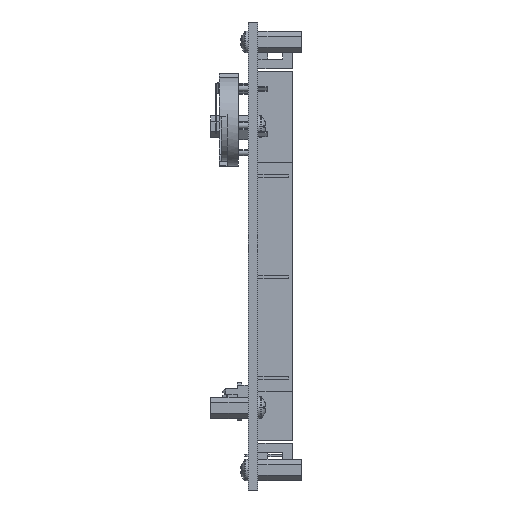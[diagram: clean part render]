
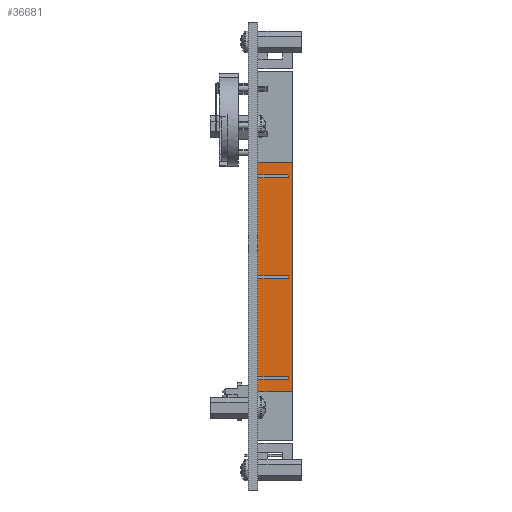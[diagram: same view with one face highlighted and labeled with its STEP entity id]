
A CAD part, left-side view. The second image highlights one B-rep face of the part: STEP entity #36681.
In plain terms, the highlighted planar face has unit normal (-1, 0, 0).
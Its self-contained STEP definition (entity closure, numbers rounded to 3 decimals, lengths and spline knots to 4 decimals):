
#331=DIRECTION('',(0.,0.,1.));
#332=VECTOR('',#331,0.124);
#333=CARTESIAN_POINT('',(-4.0252,0.,0.464));
#334=LINE('',#333,#332);
#347=DIRECTION('',(0.,0.,1.));
#348=VECTOR('',#347,0.9846);
#349=CARTESIAN_POINT('',(-4.0252,0.,-0.5482));
#350=LINE('',#349,#348);
#363=DIRECTION('',(0.,0.,1.));
#364=VECTOR('',#363,0.9846);
#365=CARTESIAN_POINT('',(-4.0252,0.,-1.5604));
#366=LINE('',#365,#364);
#379=DIRECTION('',(0.,0.,1.));
#380=VECTOR('',#379,0.124);
#381=CARTESIAN_POINT('',(-4.0252,0.,-1.712));
#382=LINE('',#381,#380);
#4259=DIRECTION('',(0.,-1.,0.));
#4260=VECTOR('',#4259,0.3465);
#4261=CARTESIAN_POINT('',(-4.0252,0.,-1.712));
#4262=LINE('',#4261,#4260);
#4403=DIRECTION('',(0.,1.,0.));
#4404=VECTOR('',#4403,0.3465);
#4405=CARTESIAN_POINT('',(-4.0252,-0.3465,
0.588));
#4406=LINE('',#4405,#4404);
#4411=DIRECTION('',(0.,0.,1.));
#4412=VECTOR('',#4411,0.0276);
#4413=CARTESIAN_POINT('',(-4.0252,-0.3071,
-1.588));
#4414=LINE('',#4413,#4412);
#4415=DIRECTION('',(0.,0.,1.));
#4416=VECTOR('',#4415,0.0276);
#4417=CARTESIAN_POINT('',(-4.0252,-0.3071,
-0.5758));
#4418=LINE('',#4417,#4416);
#4419=DIRECTION('',(0.,0.,1.));
#4420=VECTOR('',#4419,0.0276);
#4421=CARTESIAN_POINT('',(-4.0252,-0.3071,
0.4364));
#4422=LINE('',#4421,#4420);
#4423=DIRECTION('',(0.,0.,-1.));
#4424=VECTOR('',#4423,2.3);
#4425=CARTESIAN_POINT('',(-4.0252,-0.3465,
0.588));
#4426=LINE('',#4425,#4424);
#4431=DIRECTION('',(0.,1.,0.));
#4432=VECTOR('',#4431,0.3071);
#4433=CARTESIAN_POINT('',(-4.0252,-0.3071,
-1.588));
#4434=LINE('',#4433,#4432);
#4443=DIRECTION('',(0.,-1.,0.));
#4444=VECTOR('',#4443,0.3071);
#4445=CARTESIAN_POINT('',(-4.0252,0.,-1.5604));
#4446=LINE('',#4445,#4444);
#4459=DIRECTION('',(0.,1.,0.));
#4460=VECTOR('',#4459,0.3071);
#4461=CARTESIAN_POINT('',(-4.0252,-0.3071,
-0.5758));
#4462=LINE('',#4461,#4460);
#4471=DIRECTION('',(0.,-1.,0.));
#4472=VECTOR('',#4471,0.3071);
#4473=CARTESIAN_POINT('',(-4.0252,0.,-0.5482));
#4474=LINE('',#4473,#4472);
#4487=DIRECTION('',(0.,1.,0.));
#4488=VECTOR('',#4487,0.3071);
#4489=CARTESIAN_POINT('',(-4.0252,-0.3071,
0.4364));
#4490=LINE('',#4489,#4488);
#4499=DIRECTION('',(0.,-1.,0.));
#4500=VECTOR('',#4499,0.3071);
#4501=CARTESIAN_POINT('',(-4.0252,0.,0.464));
#4502=LINE('',#4501,#4500);
#26949=CARTESIAN_POINT('',(-4.0252,-0.3465,
0.588));
#26950=VERTEX_POINT('',#26949);
#26959=CARTESIAN_POINT('',(-4.0252,-0.3465,-1.712));
#26960=VERTEX_POINT('',#26959);
#26965=CARTESIAN_POINT('',(-4.0252,-0.3071,
-0.5758));
#26966=CARTESIAN_POINT('',(-4.0252,-0.3071,
-0.5482));
#26967=VERTEX_POINT('',#26965);
#26968=VERTEX_POINT('',#26966);
#26969=CARTESIAN_POINT('',(-4.0252,-0.3071,
0.4364));
#26970=CARTESIAN_POINT('',(-4.0252,-0.3071,
0.464));
#26971=VERTEX_POINT('',#26969);
#26972=VERTEX_POINT('',#26970);
#26973=CARTESIAN_POINT('',(-4.0252,-0.3071,
-1.588));
#26974=CARTESIAN_POINT('',(-4.0252,-0.3071,
-1.5604));
#26975=VERTEX_POINT('',#26973);
#26976=VERTEX_POINT('',#26974);
#27009=CARTESIAN_POINT('',(-4.0252,0.,0.588));
#27010=VERTEX_POINT('',#27009);
#27011=CARTESIAN_POINT('',(-4.0252,0.,-1.712));
#27012=VERTEX_POINT('',#27011);
#27013=CARTESIAN_POINT('',(-4.0252,0.,-1.588));
#27014=VERTEX_POINT('',#27013);
#27015=CARTESIAN_POINT('',(-4.0252,0.,-1.5604));
#27016=CARTESIAN_POINT('',(-4.0252,0.,-0.5758));
#27017=VERTEX_POINT('',#27015);
#27018=VERTEX_POINT('',#27016);
#27019=CARTESIAN_POINT('',(-4.0252,0.,-0.5482));
#27020=CARTESIAN_POINT('',(-4.0252,0.,0.4364));
#27021=VERTEX_POINT('',#27019);
#27022=VERTEX_POINT('',#27020);
#27023=CARTESIAN_POINT('',(-4.0252,0.,0.464));
#27024=VERTEX_POINT('',#27023);
#36649=CARTESIAN_POINT('',(-4.0252,-0.1732,
-0.562));
#36650=DIRECTION('',(1.,0.,0.));
#36651=DIRECTION('',(0.,0.,1.));
#36652=AXIS2_PLACEMENT_3D('',#36649,#36650,#36651);
#36653=PLANE('',#36652);
#36654=ORIENTED_EDGE('',*,*,#31806,.T.);
#36656=ORIENTED_EDGE('',*,*,#36655,.F.);
#36658=ORIENTED_EDGE('',*,*,#36657,.T.);
#36660=ORIENTED_EDGE('',*,*,#36659,.F.);
#36661=ORIENTED_EDGE('',*,*,#31798,.T.);
#36663=ORIENTED_EDGE('',*,*,#36662,.F.);
#36665=ORIENTED_EDGE('',*,*,#36664,.T.);
#36667=ORIENTED_EDGE('',*,*,#36666,.F.);
#36668=ORIENTED_EDGE('',*,*,#31790,.T.);
#36670=ORIENTED_EDGE('',*,*,#36669,.F.);
#36672=ORIENTED_EDGE('',*,*,#36671,.T.);
#36674=ORIENTED_EDGE('',*,*,#36673,.F.);
#36675=ORIENTED_EDGE('',*,*,#31782,.T.);
#36676=ORIENTED_EDGE('',*,*,#36632,.F.);
#36677=ORIENTED_EDGE('',*,*,#36518,.T.);
#36678=ORIENTED_EDGE('',*,*,#36387,.F.);
#36679=EDGE_LOOP('',(#36654,#36656,#36658,#36660,#36661,#36663,#36665,#36667,
#36668,#36670,#36672,#36674,#36675,#36676,#36677,#36678));
#36680=FACE_OUTER_BOUND('',#36679,.F.);
#31782=EDGE_CURVE('',#27024,#27010,#334,.T.);
#31790=EDGE_CURVE('',#27021,#27022,#350,.T.);
#31798=EDGE_CURVE('',#27017,#27018,#366,.T.);
#31806=EDGE_CURVE('',#27012,#27014,#382,.T.);
#36387=EDGE_CURVE('',#27012,#26960,#4262,.T.);
#36518=EDGE_CURVE('',#26950,#26960,#4426,.T.);
#36632=EDGE_CURVE('',#26950,#27010,#4406,.T.);
#36655=EDGE_CURVE('',#26975,#27014,#4434,.T.);
#36657=EDGE_CURVE('',#26975,#26976,#4414,.T.);
#36659=EDGE_CURVE('',#27017,#26976,#4446,.T.);
#36662=EDGE_CURVE('',#26967,#27018,#4462,.T.);
#36664=EDGE_CURVE('',#26967,#26968,#4418,.T.);
#36666=EDGE_CURVE('',#27021,#26968,#4474,.T.);
#36669=EDGE_CURVE('',#26971,#27022,#4490,.T.);
#36671=EDGE_CURVE('',#26971,#26972,#4422,.T.);
#36673=EDGE_CURVE('',#27024,#26972,#4502,.T.);
#36681=ADVANCED_FACE('',(#36680),#36653,.F.);
